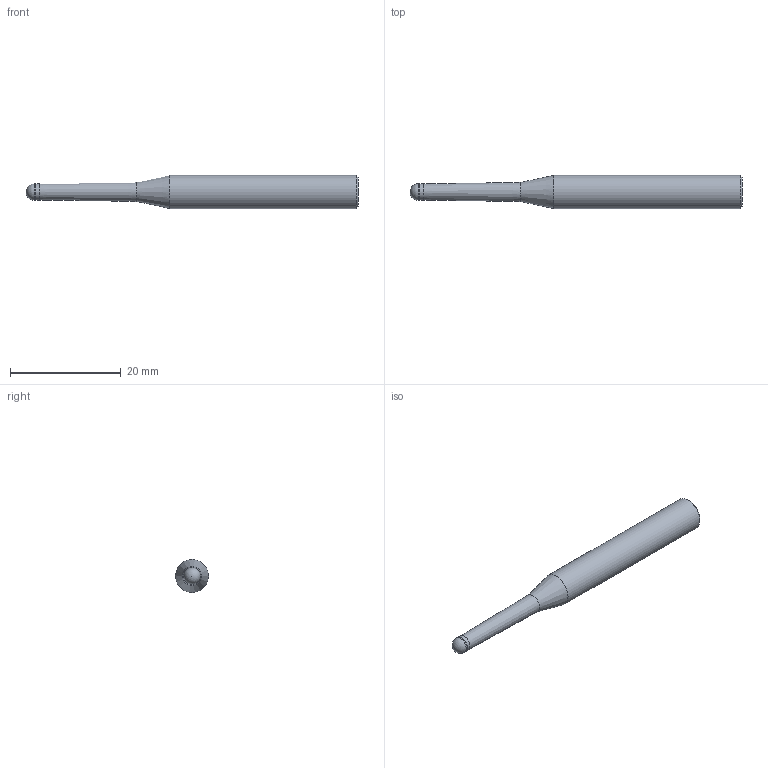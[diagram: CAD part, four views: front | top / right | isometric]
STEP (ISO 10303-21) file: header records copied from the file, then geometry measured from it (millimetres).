
FILE_DESCRIPTION(/* description */ (''),/* implementation_level */ '2;1');
FILE_NAME(/* name */ 'HGXPB2030-20-T0.9 0660.stp',/* time_stamp */ '2026-01-23T15:36:28+08:00',/* author */ (''),/* organization */ (''),/* preprocessor_version */ 'ST-DEVELOPER v16',/* originating_system */ 'SIEMENS PLM Software NX 10.0',/* authorisation */ '');
FILE_SCHEMA (('CONFIG_CONTROL_DESIGN'));
Length unit declared in the file: millimetre
Products named in the file (1): HGXPB2030-20-T0.9 0660_dxf
Bounding box: 60 x 6 x 6 mm (x, y, z)
Volume: 1221 mm3; surface area: 955.2 mm2
Topology: 1 solids, 1 shells, 9 faces, 16 edges, 9 vertices
Faces by surface type: cylinder 3, cone 3, plane 2, sphere 1
Full cylindrical faces by diameter (mm): 2.9 x1, 3 x1, 6 x1
Entity records: 258 total; most frequent: DIRECTION 36, CARTESIAN_POINT 26, AXIS2_PLACEMENT_3D 18, EDGE_LOOP 16, ORIENTED_EDGE 16, FACE_BOUND 14, ADVANCED_FACE 9, VERTEX_POINT 8
